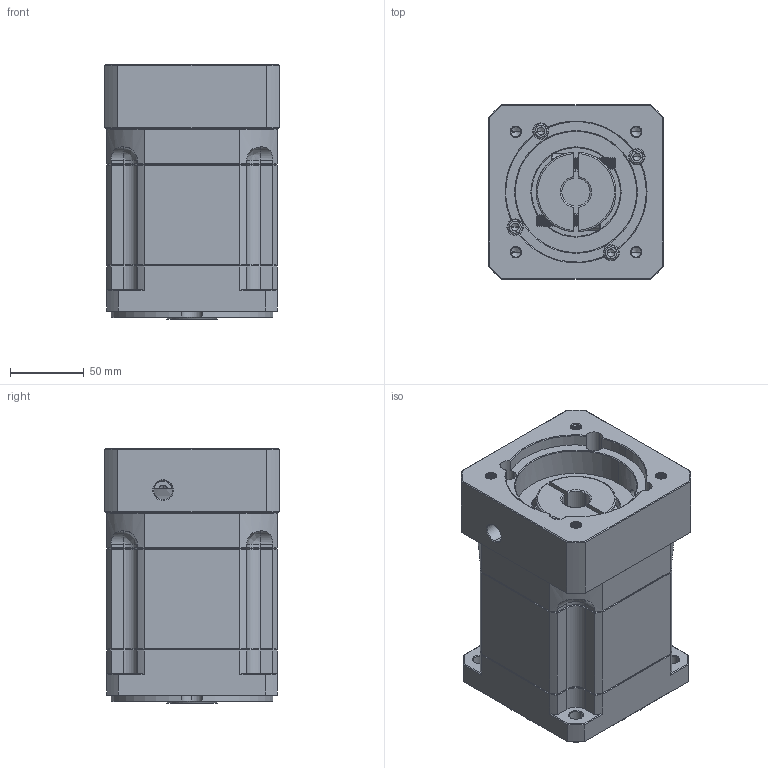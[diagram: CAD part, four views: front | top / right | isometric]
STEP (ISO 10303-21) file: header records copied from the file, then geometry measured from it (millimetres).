
FILE_DESCRIPTION (( 'STEP AP214' ), '1' );
FILE_NAME ('ZB115A-K25-L2-19-95-115-M8.step', '2023-03-02T09:04:30', ( '' ), ( 'Microsoft' ), 'SwSTEP 2.0', 'SolidWorks 2016', '' );
FILE_SCHEMA (( 'AUTOMOTIVE_DESIGN' ));
Length unit declared in the file: millimetre
Products named in the file (1): ZB115A-K25-L2-19-95-115-M8
Bounding box: 118 x 118 x 172 mm (x, y, z)
Volume: 1875112.1 mm3; surface area: 178859.8 mm2
Topology: 6 solids, 6 shells, 2087 faces, 5437 edges, 3439 vertices
Faces by surface type: plane 957, cylinder 417, cone 377, bspline 336
Entity records: 109137 total; most frequent: CARTESIAN_POINT 37746, ORIENTED_EDGE 10810, DIRECTION 8905, EDGE_CURVE 5405, VERTEX_POINT 3439, VECTOR 3337, LINE 3337, AXIS2_PLACEMENT_3D 2784
